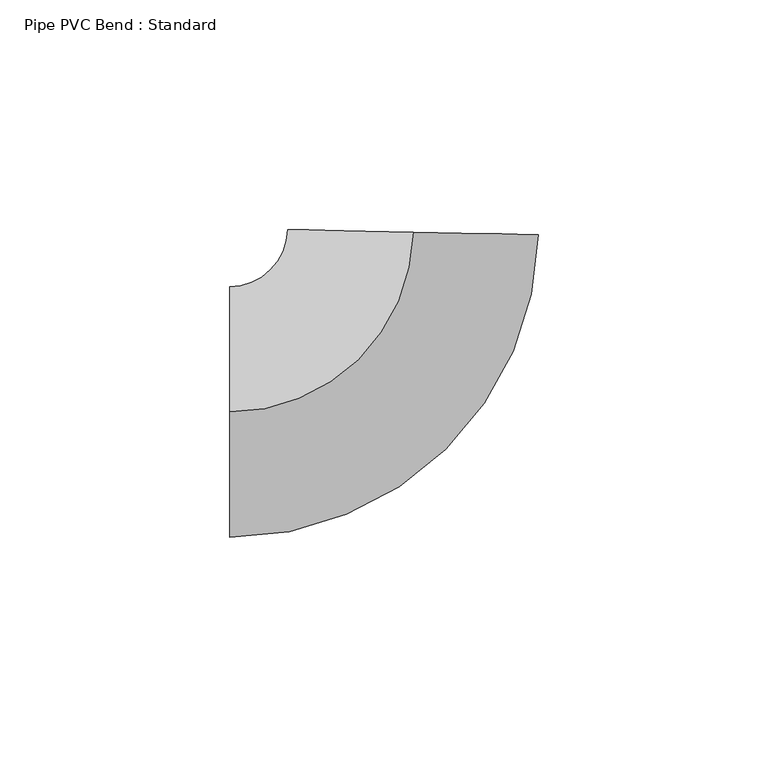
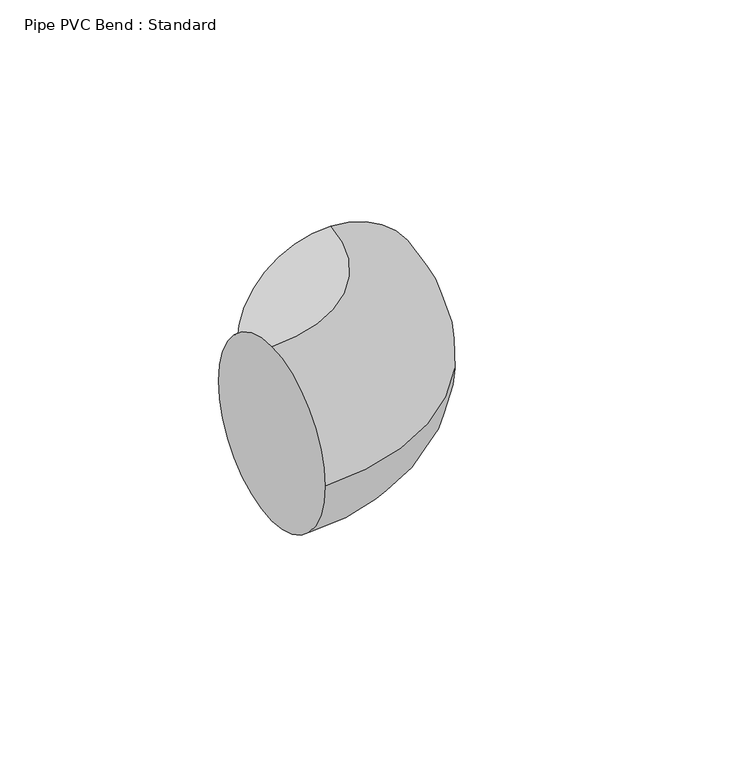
"""IFC4 building model written with IfcOpenShell, lengths in millimetres: pipe fitting geometry, Pipe PVC Bend : Standard."""

from ifc_helpers import new_model, si_unit, point, frame, origin, place, context, project, spatial, circle_curve, ellipse_curve, trimmed, source, transform, mapped, element, save
from ifc_brep_helpers import plane_surface, revolved_surface, advanced_brep


def pipe_pvc_bend_standard_7b507ca5(model_context):
    return source(origin(), model_context, "Body", "AdvancedBrep", [
        advanced_brep(
        [(-39.1802432, 0.0, 27.305), (-39.1802432, 27.305, 0.0), (-39.1802432, 0.0, -27.305), (-39.1802432, -27.305, 0.0), (0.816078, 39.1717433, 27.305), (28.1151543, 38.6030126, 0.0), (0.816078, 39.1717433, -27.305), (-26.4829984, 39.7404741, 0.0)],
        [
            (0, 1, circle_curve(frame((-39.1802432, 0.0, 0.0), z_axis=(-1.0, 0.0, 0.0), x_axis=(0.0, 1.0, 0.0)), 27.305)),
            (1, 2, circle_curve(frame((-39.1802432, 0.0, 0.0), z_axis=(-1.0, 0.0, 0.0), x_axis=(0.0, 1.0, 0.0)), 27.305)),
            (2, 3, circle_curve(frame((-39.1802432, 0.0, 0.0), z_axis=(-1.0, 0.0, 0.0), x_axis=(0.0, 1.0, 0.0)), 27.305)),
            (3, 0, circle_curve(frame((-39.1802432, 0.0, 0.0), z_axis=(-1.0, 0.0, 0.0), x_axis=(0.0, 1.0, 0.0)), 27.305)),
            (4, 5, circle_curve(frame((0.816078, 39.1717433, 0.0), z_axis=(0.020828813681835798, 0.9997830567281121, 0.0), x_axis=(-0.9997830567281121, 0.020828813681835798, 0.0)), 27.305)),
            (5, 6, circle_curve(frame((0.816078, 39.1717433, 0.0), z_axis=(0.020828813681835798, 0.9997830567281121, 0.0), x_axis=(-0.9997830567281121, 0.020828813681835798, 0.0)), 27.305)),
            (6, 7, circle_curve(frame((0.816078, 39.1717433, 0.0), z_axis=(0.020828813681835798, 0.9997830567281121, 0.0), x_axis=(-0.9997830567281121, 0.020828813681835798, 0.0)), 27.305)),
            (7, 4, circle_curve(frame((0.816078, 39.1717433, 0.0), z_axis=(0.020828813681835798, 0.9997830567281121, 0.0), x_axis=(-0.9997830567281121, 0.020828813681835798, 0.0)), 27.305)),
            (7, 1, circle_curve(frame((-39.1802432, 40.005, 0.0), z_axis=(0.0, 0.0, -1.0), x_axis=(0.0, -1.0, 0.0)), 12.7)),
            (0, 4, circle_curve(frame((-39.1802432, 40.005, 27.305), z_axis=(0.0, 0.0, 1.0), x_axis=(0.0, -1.0, 0.0)), 40.005)),
            (6, 2, circle_curve(frame((-39.1802432, 40.005, -27.305), z_axis=(0.0, 0.0, -1.0), x_axis=(0.0, -1.0, 0.0)), 40.005)),
            (5, 3, circle_curve(frame((-39.1802432, 40.005, 0.0), z_axis=(0.0, 0.0, -1.0), x_axis=(0.0, -1.0, 0.0)), 67.31)),
        ],
        [
            plane_surface(frame((-39.1802432, 0.0, 0.0), z_axis=(-1.0, 0.0, 0.0), x_axis=(0.0, 0.0, 1.0))),
            plane_surface(frame((0.816078, 39.1717433, 0.0), z_axis=(0.02082881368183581, 0.9997830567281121, 0.0), x_axis=(0.0, 0.0, 1.0))),
            revolved_surface(trimmed(ellipse_curve(frame((-39.1802432, 0.0, 0.0), z_axis=(-1.0, 0.0, 0.0), x_axis=(0.0, 1.0, 0.0)), 27.305, 27.305), [point((-39.1802432, 0.0, 27.305))], [point((-39.1802432, 27.305, 0.0))], True, "CARTESIAN"), (-39.1802432, 40.005, 0.0), (0.0, 0.0, 1.0)),
            revolved_surface(trimmed(ellipse_curve(frame((-39.1802432, 0.0, 0.0), z_axis=(-1.0, 0.0, 0.0), x_axis=(0.0, 1.0, 0.0)), 27.305, 27.305), [point((-39.1802432, 27.305, 0.0))], [point((-39.1802432, 0.0, -27.305))], True, "CARTESIAN"), (-39.1802432, 40.005, 0.0), (0.0, 0.0, 1.0)),
            revolved_surface(trimmed(ellipse_curve(frame((-39.1802432, 0.0, 0.0), z_axis=(-1.0, 0.0, 0.0), x_axis=(0.0, 1.0, 0.0)), 27.305, 27.305), [point((-39.1802432, 0.0, -27.305))], [point((-39.1802432, -27.305, 0.0))], True, "CARTESIAN"), (-39.1802432, 40.005, 0.0), (0.0, 0.0, 1.0)),
            revolved_surface(trimmed(ellipse_curve(frame((-39.1802432, 0.0, 0.0), z_axis=(-1.0, 0.0, 0.0), x_axis=(0.0, 1.0, 0.0)), 27.305, 27.305), [point((-39.1802432, -27.305, 0.0))], [point((-39.1802432, 0.0, 27.305))], True, "CARTESIAN"), (-39.1802432, 40.005, 0.0), (0.0, 0.0, 1.0)),
        ],
        [
            (0, [[1, 2, 3, 4]]),
            (1, [[5, 6, 7, 8]]),
            (2, [[9, -1, 10, -8]]),
            (3, [[11, -2, -9, -7]]),
            (4, [[12, -3, -11, -6]]),
            (5, [[-10, -4, -12, -5]]),
        ],
    ),
        advanced_brep(
        [(-39.1802432, 0.0, 27.305), (-39.1802432, 27.305, 0.0), (-39.1802432, 0.0, -27.305), (-39.1802432, -27.305, 0.0), (0.816078, 39.1717433, 27.305), (28.1151543, 38.6030126, 0.0), (0.816078, 39.1717433, -27.305), (-26.4829984, 39.7404741, 0.0)],
        [
            (0, 1, circle_curve(frame((-39.1802432, 0.0, 0.0), z_axis=(-1.0, 0.0, 0.0), x_axis=(0.0, 1.0, 0.0)), 27.305)),
            (1, 2, circle_curve(frame((-39.1802432, 0.0, 0.0), z_axis=(-1.0, 0.0, 0.0), x_axis=(0.0, 1.0, 0.0)), 27.305)),
            (2, 3, circle_curve(frame((-39.1802432, 0.0, 0.0), z_axis=(-1.0, 0.0, 0.0), x_axis=(0.0, 1.0, 0.0)), 27.305)),
            (3, 0, circle_curve(frame((-39.1802432, 0.0, 0.0), z_axis=(-1.0, 0.0, 0.0), x_axis=(0.0, 1.0, 0.0)), 27.305)),
            (4, 5, circle_curve(frame((0.816078, 39.1717433, 0.0), z_axis=(0.020828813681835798, 0.9997830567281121, 0.0), x_axis=(-0.9997830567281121, 0.020828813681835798, 0.0)), 27.305)),
            (5, 6, circle_curve(frame((0.816078, 39.1717433, 0.0), z_axis=(0.020828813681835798, 0.9997830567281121, 0.0), x_axis=(-0.9997830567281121, 0.020828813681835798, 0.0)), 27.305)),
            (6, 7, circle_curve(frame((0.816078, 39.1717433, 0.0), z_axis=(0.020828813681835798, 0.9997830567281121, 0.0), x_axis=(-0.9997830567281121, 0.020828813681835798, 0.0)), 27.305)),
            (7, 4, circle_curve(frame((0.816078, 39.1717433, 0.0), z_axis=(0.020828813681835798, 0.9997830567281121, 0.0), x_axis=(-0.9997830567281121, 0.020828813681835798, 0.0)), 27.305)),
            (7, 1, circle_curve(frame((-39.1802432, 40.005, 0.0), z_axis=(0.0, 0.0, -1.0), x_axis=(0.0, -1.0, 0.0)), 12.7)),
            (0, 4, circle_curve(frame((-39.1802432, 40.005, 27.305), z_axis=(0.0, 0.0, 1.0), x_axis=(0.0, -1.0, 0.0)), 40.005)),
            (6, 2, circle_curve(frame((-39.1802432, 40.005, -27.305), z_axis=(0.0, 0.0, -1.0), x_axis=(0.0, -1.0, 0.0)), 40.005)),
            (5, 3, circle_curve(frame((-39.1802432, 40.005, 0.0), z_axis=(0.0, 0.0, -1.0), x_axis=(0.0, -1.0, 0.0)), 67.31)),
        ],
        [
            plane_surface(frame((-39.1802432, 0.0, 0.0), z_axis=(-1.0, 0.0, 0.0), x_axis=(0.0, 0.0, 1.0))),
            plane_surface(frame((0.816078, 39.1717433, 0.0), z_axis=(0.02082881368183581, 0.9997830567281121, 0.0), x_axis=(0.0, 0.0, 1.0))),
            revolved_surface(trimmed(ellipse_curve(frame((-39.1802432, 0.0, 0.0), z_axis=(-1.0, 0.0, 0.0), x_axis=(0.0, 1.0, 0.0)), 27.305, 27.305), [point((-39.1802432, 0.0, 27.305))], [point((-39.1802432, 27.305, 0.0))], True, "CARTESIAN"), (-39.1802432, 40.005, 0.0), (0.0, 0.0, 1.0)),
            revolved_surface(trimmed(ellipse_curve(frame((-39.1802432, 0.0, 0.0), z_axis=(-1.0, 0.0, 0.0), x_axis=(0.0, 1.0, 0.0)), 27.305, 27.305), [point((-39.1802432, 27.305, 0.0))], [point((-39.1802432, 0.0, -27.305))], True, "CARTESIAN"), (-39.1802432, 40.005, 0.0), (0.0, 0.0, 1.0)),
            revolved_surface(trimmed(ellipse_curve(frame((-39.1802432, 0.0, 0.0), z_axis=(-1.0, 0.0, 0.0), x_axis=(0.0, 1.0, 0.0)), 27.305, 27.305), [point((-39.1802432, 0.0, -27.305))], [point((-39.1802432, -27.305, 0.0))], True, "CARTESIAN"), (-39.1802432, 40.005, 0.0), (0.0, 0.0, 1.0)),
            revolved_surface(trimmed(ellipse_curve(frame((-39.1802432, 0.0, 0.0), z_axis=(-1.0, 0.0, 0.0), x_axis=(0.0, 1.0, 0.0)), 27.305, 27.305), [point((-39.1802432, -27.305, 0.0))], [point((-39.1802432, 0.0, 27.305))], True, "CARTESIAN"), (-39.1802432, 40.005, 0.0), (0.0, 0.0, 1.0)),
        ],
        [
            (0, [[1, 2, 3, 4]]),
            (1, [[5, 6, 7, 8]]),
            (2, [[9, -1, 10, -8]]),
            (3, [[11, -2, -9, -7]]),
            (4, [[12, -3, -11, -6]]),
            (5, [[-10, -4, -12, -5]]),
        ],
    ),
    ])


if __name__ == "__main__":
    model = new_model("IFC4")
    model_context = context("Model", 3, world=origin())
    ifc_project = project(units=[si_unit("LENGTHUNIT", "METRE", prefix="MILLI")], contexts=[model_context])
    site = spatial("IfcSite", under=ifc_project)
    building = spatial("IfcBuilding", under=site)
    placement = place(None, origin())
    pipe_pvc_bend_standard_shape = pipe_pvc_bend_standard_7b507ca5(model_context)
    element("IfcPipeFitting", 1, ObjectType="Pipe PVC Bend : Standard", at=placement, inside=building, context=model_context, shape_type="MappedRepresentation", body=[
        mapped(pipe_pvc_bend_standard_shape, transform((0.0, 0.0, 0.0), x_axis=(1.0, 0.0, 0.0), y_axis=(0.0, 1.0, 0.0), z_axis=(0.0, 0.0, 1.0))),
    ])
    save(model, "model.ifc")
